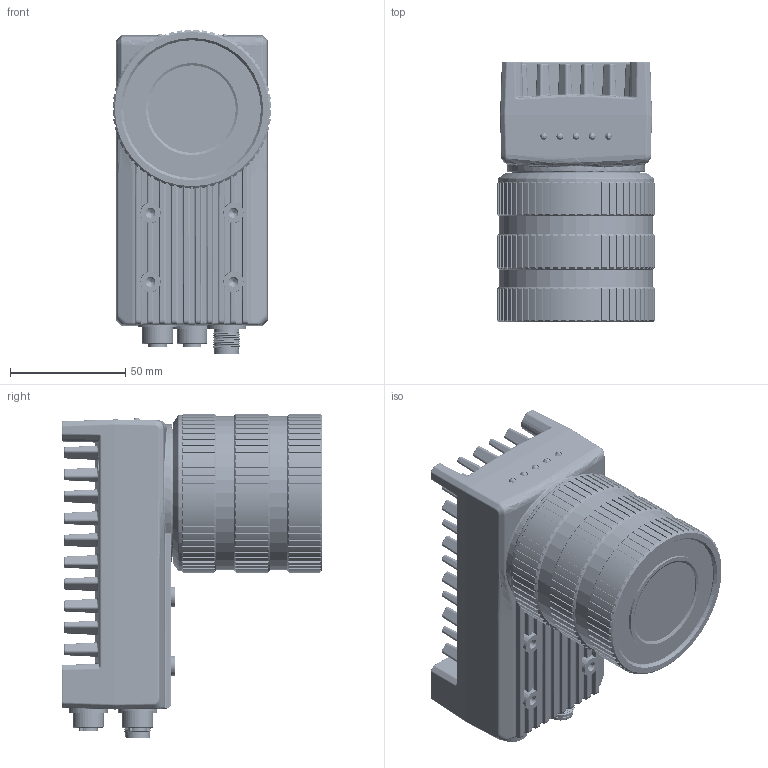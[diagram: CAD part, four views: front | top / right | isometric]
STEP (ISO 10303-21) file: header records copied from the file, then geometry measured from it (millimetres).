
FILE_DESCRIPTION((''),'2;1');
FILE_NAME('S-CASE-ASM_ASM_ASM_08','2018-05-10T',('zhangruofan'),(''),'PRO/ENGINEER BY PARAMETRIC TECHNOLOGY CORPORATION, 2016100','PRO/ENGINEER BY PARAMETRIC TECHNOLOGY CORPORATION, 2016100','');
FILE_SCHEMA(('CONFIG_CONTROL_DESIGN'));
Products named in the file (1): S-CASE-ASM_ASM_ASM_08
Bounding box: 68.99 x 113.2 x 140.99 mm (x, y, z)
Volume: 331980.4 mm3; surface area: 139839 mm2
Topology: 11 solids, 77 shells, 6880 faces, 17721 edges, 11099 vertices
Faces by surface type: plane 2173, cylinder 2164, bspline 976, cone 895, torus 495, extrusion 121, sphere 54, revolution 2
Entity records: 305504 total; most frequent: CARTESIAN_POINT 105074, ORIENTED_EDGE 35108, DIRECTION 30429, EDGE_CURVE 17554, AXIS2_PLACEMENT_3D 11698, VERTEX_POINT 11099, EDGE_LOOP 7247, VECTOR 7031
